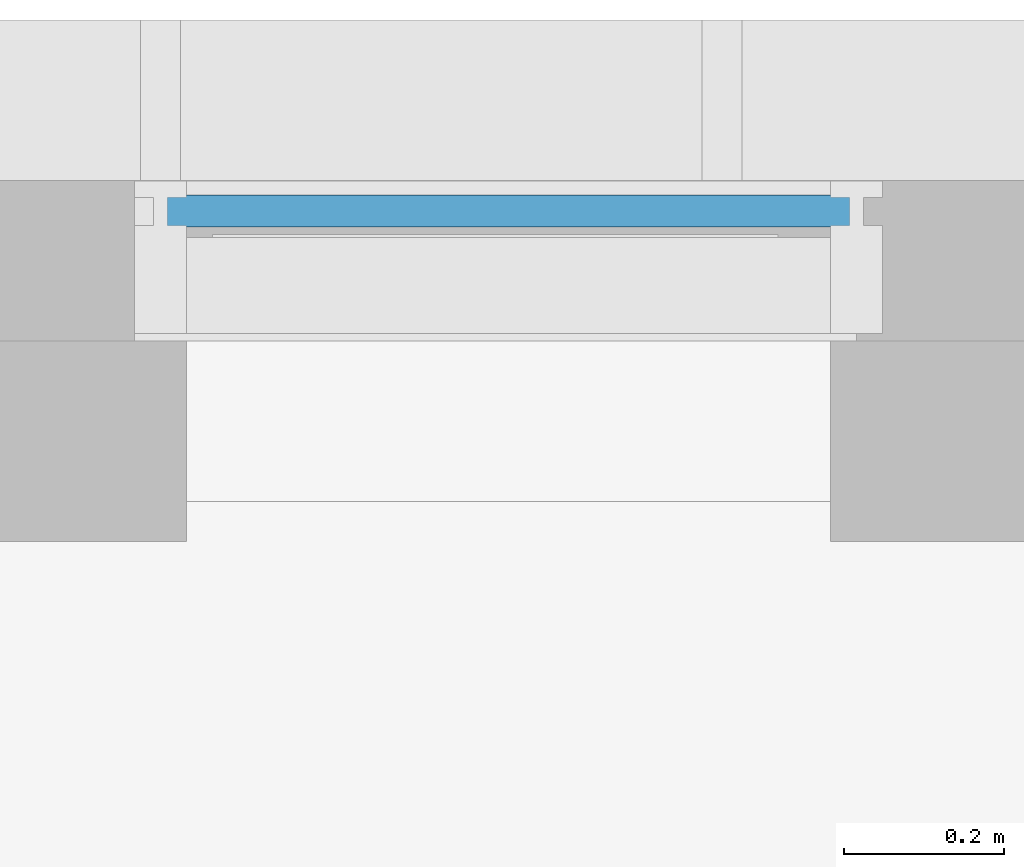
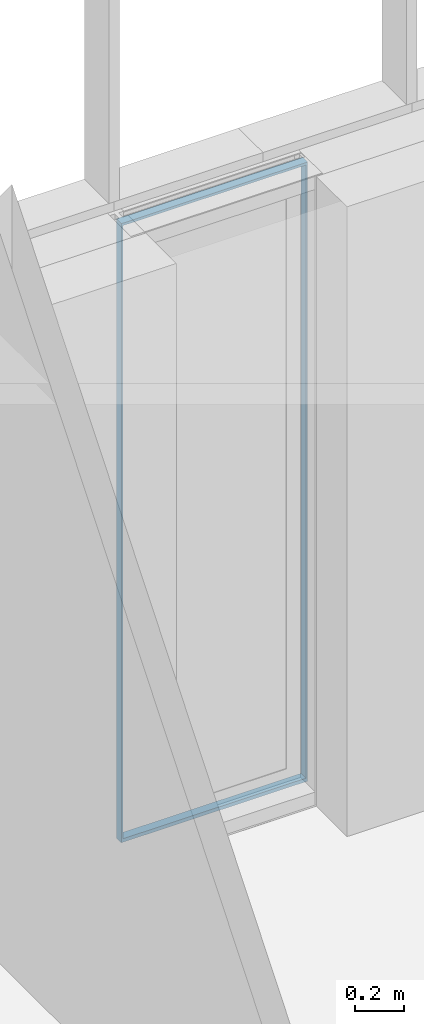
# One storey, part 180 of 240: 1 plate, 1 element without a shape of its own.
"""IFC2X3 building model written with IfcOpenShell, lengths in centimetres."""

import ifcopenshell
import ifcopenshell.guid

model = None  # the IFC model being written
_history = None  # IfcOwnerHistory: only IFC2X3 demands one
_inside = {}  # id of a spatial element -> (the spatial element, [elements in it])
_under = {}  # id of a project, library or spatial element -> (it, [spatial elements below it])
_declared = {}  # id of a project -> (the project, [libraries it declares])
_typed = {}  # id of a type object -> (the type object, [elements of that type])
_made_of = {}  # id of a material, layer set ... -> (it, [elements and type objects made of it])


def new_model(schema):
    """Start an empty IFC model of exactly this schema.

    Asked for "IFC4X3", IfcOpenShell would pick the latest addendum, in which some entities
    have other attributes; the version numbers below select the first issue.
    IFC2X3 requires an IfcOwnerHistory on every rooted entity: one is made here for all.
    """
    global model, _history
    if schema == "IFC4X3":
        model = ifcopenshell.file(schema_version=(4, 3, 0, 0))
    else:
        model = ifcopenshell.file(schema=schema)
    _inside.clear()
    _under.clear()
    _declared.clear()
    _typed.clear()
    _made_of.clear()
    _history = None
    if model.schema == "IFC2X3":
        org = make("IfcOrganization", Name="unknown")
        user = make(
            "IfcPersonAndOrganization",
            ThePerson=make("IfcPerson", FamilyName="unknown"),
            TheOrganization=org,
        )
        app = make(
            "IfcApplication",
            ApplicationDeveloper=org,
            Version="unknown",
            ApplicationFullName="unknown",
            ApplicationIdentifier="unknown",
        )
        _history = make(
            "IfcOwnerHistory",
            OwningUser=user,
            OwningApplication=app,
            ChangeAction="ADDED",
            CreationDate=0,
        )
    return model


def make(cls, **values):
    """One entity of the class cls with the attributes given. An attribute that is None is left unset."""
    return model.create_entity(
        cls, **{name: value for name, value in values.items() if value is not None}
    )


def entity(cls, *values):
    """Any entity or typed value of the class cls, its attributes in the order of the schema. None: left unset."""
    e = model.create_entity(cls)
    for i, value in enumerate(values):
        if value is not None:
            e[i] = value
    return e


def rooted(cls, **values):
    """An entity with a GlobalId (a new one), such as an element, a storey or a relation."""
    return make(cls, GlobalId=ifcopenshell.guid.new(), OwnerHistory=_history, **values)


def si_unit(unit_type, name, prefix=None):
    """IfcSIUnit, for example si_unit("LENGTHUNIT", "METRE", prefix="MILLI")."""
    return make("IfcSIUnit", UnitType=unit_type, Prefix=prefix, Name=name)


def converted_unit(unit_type, name, factor, base, dimensions=None, offset=None):
    """IfcConversionBasedUnit, such as the inch: factor (a typed value) times the base unit."""
    return make(
        "IfcConversionBasedUnit"
        if offset is None
        else "IfcConversionBasedUnitWithOffset",
        ConversionOffset=offset,
        Dimensions=None
        if dimensions is None
        else entity("IfcDimensionalExponents", *dimensions),
        UnitType=unit_type,
        Name=name,
        ConversionFactor=make(
            "IfcMeasureWithUnit", ValueComponent=factor, UnitComponent=base
        ),
    )


def derived_unit(unit_type, elements):
    """IfcDerivedUnit: a product of units, each with its exponent."""
    return make(
        "IfcDerivedUnit",
        Elements=[
            make("IfcDerivedUnitElement", Unit=unit, Exponent=power)
            for unit, power in elements
        ],
        UnitType=unit_type,
    )


def assignment(units):
    """IfcUnitAssignment: the units of a project."""
    return None if units is None else make("IfcUnitAssignment", Units=units)


def point(xyz):
    """IfcCartesianPoint."""
    return None if xyz is None else make("IfcCartesianPoint", Coordinates=xyz)


def direction(xyz):
    """IfcDirection."""
    return None if xyz is None else make("IfcDirection", DirectionRatios=xyz)


def frame(location, z_axis=None, x_axis=None):
    """IfcAxis2Placement3D, a coordinate frame: its origin and axes. An axis left out is left unset."""
    return make(
        "IfcAxis2Placement3D",
        Location=point(location),
        Axis=direction(z_axis),
        RefDirection=direction(x_axis),
    )


def origin():
    """The frame at (0, 0, 0) with its axes left unset."""
    return frame((0.0, 0.0, 0.0))


def place(relative_to, where):
    """IfcLocalPlacement: puts the frame where relative to a parent placement (None: the world)."""
    return make(
        "IfcLocalPlacement", PlacementRelTo=relative_to, RelativePlacement=where
    )


def context(
    kind, dimensions, precision=None, world=None, true_north=None, identifier=None
):
    """IfcGeometricRepresentationContext, for example the 3D "Model" context."""
    return make(
        "IfcGeometricRepresentationContext",
        ContextIdentifier=identifier,
        ContextType=kind,
        CoordinateSpaceDimension=dimensions,
        Precision=precision,
        WorldCoordinateSystem=world,
        TrueNorth=true_north,
    )


def subcontext(parent, identifier, kind, view, scale=None):
    """IfcGeometricRepresentationSubContext, for example "Body" below "Model"."""
    return make(
        "IfcGeometricRepresentationSubContext",
        ContextIdentifier=identifier,
        ContextType=kind,
        ParentContext=parent,
        TargetScale=scale,
        TargetView=view,
    )


def project(units=None, contexts=None):
    """IfcProject with its units and contexts."""
    return rooted(
        "IfcProject",
        Name="project",
        RepresentationContexts=contexts,
        UnitsInContext=assignment(units),
    )


def spatial(cls, under=None, at=None, **own):
    """A site, building, storey or space (cls), placed at a placement, below another one or the project."""
    s = rooted(cls, ObjectPlacement=at, **own)
    if under is not None:
        _under.setdefault(under.id(), (under, []))[1].append(s)
    return s


def faces_of(points, faces, orient=None, outer=None):
    """IfcFace entities. A face is a list of loops; a loop is a list of indices into points, from 0.

    orient and outer hold one flag for each loop. By default every Orientation is true, the
    first loop of a face is its IfcFaceOuterBound and the others are IfcFaceBound.
    """
    made = []
    for i, loops in enumerate(faces):
        bounds = []
        for j, loop in enumerate(loops):
            is_outer = j == 0 if outer is None else outer[i][j]
            bounds.append(
                make(
                    "IfcFaceOuterBound" if is_outer else "IfcFaceBound",
                    Bound=make("IfcPolyLoop", Polygon=[points[k] for k in loop]),
                    Orientation=True if orient is None else orient[i][j],
                )
            )
        made.append(make("IfcFace", Bounds=bounds))
    return made


def face_set(faces, orient=None, outer=None):
    """The faces of one IfcConnectedFaceSet. surface_model builds it on its shared points."""
    return ("IfcConnectedFaceSet", faces, orient, outer)


def surface_model(cls, points, shells):
    """IfcFaceBasedSurfaceModel or IfcShellBasedSurfaceModel (cls): surfaces that need not close."""
    shared = [point(p) for p in points]
    made = [make(c, CfsFaces=faces_of(shared, fs, o, b)) for c, fs, o, b in shells]
    if cls == "IfcFaceBasedSurfaceModel":
        return make(cls, FbsmFaces=made)
    return make(cls, SbsmBoundary=made)


def shape(context_of_items, identifier, shape_type, items):
    """IfcShapeRepresentation: the items that make up one representation, for example the "Body"."""
    return make(
        "IfcShapeRepresentation",
        ContextOfItems=context_of_items,
        RepresentationIdentifier=identifier,
        RepresentationType=shape_type,
        Items=items,
    )


def source(mapping_origin, context_of_items, identifier, shape_type, items):
    """IfcRepresentationMap: a shape defined once, which mapped items show again and again."""
    return make(
        "IfcRepresentationMap",
        MappingOrigin=mapping_origin,
        MappedRepresentation=shape(context_of_items, identifier, shape_type, items),
    )


def transform(
    local_origin,
    x_axis=None,
    y_axis=None,
    z_axis=None,
    scale=None,
    scale2=None,
    scale3=None,
    uniform=True,
):
    """IfcCartesianTransformationOperator3D, or its non-uniform kind. x_axis, y_axis, z_axis: its Axis1, 2, 3."""
    if uniform:
        return make(
            "IfcCartesianTransformationOperator3D",
            Axis1=direction(x_axis),
            Axis2=direction(y_axis),
            LocalOrigin=point(local_origin),
            Scale=scale,
            Axis3=direction(z_axis),
        )
    return make(
        "IfcCartesianTransformationOperator3DnonUniform",
        Axis1=direction(x_axis),
        Axis2=direction(y_axis),
        LocalOrigin=point(local_origin),
        Scale=scale,
        Axis3=direction(z_axis),
        Scale2=scale2,
        Scale3=scale3,
    )


def mapped(mapping_source, mapping_target):
    """IfcMappedItem: shows the shape of a source again, moved by a transform."""
    return make(
        "IfcMappedItem", MappingSource=mapping_source, MappingTarget=mapping_target
    )


def material(Name=None, Category=None):
    """IfcMaterial."""
    return make("IfcMaterial", Name=Name, Category=Category)


def layer(
    of_material, thickness, ventilated=None, Name=None, Category=None, Priority=None
):
    """IfcMaterialLayer: one layer of a wall or slab, of a material (None: an air gap)."""
    return make(
        "IfcMaterialLayer",
        Material=of_material,
        LayerThickness=thickness,
        IsVentilated=ventilated,
        Name=Name,
        Category=Category,
        Priority=Priority,
    )


def layer_set(layers, Name=None):
    """IfcMaterialLayerSet."""
    return make("IfcMaterialLayerSet", MaterialLayers=layers, LayerSetName=Name)


def made_of(thing, what):
    """Note that an element or type object is made of a material, layer set ...; save() writes the relation."""
    if what is not None:
        _made_of.setdefault(what.id(), (what, []))[1].append(thing)
    return thing


def type_object(cls, material=None, **own):
    """A type object (cls), such as IfcWallType, which elements share."""
    return made_of(rooted(cls, **own), material)


def type_shapes(of_type, sources):
    """Give a type object the sources (RepresentationMaps) that its elements show as mapped items."""
    of_type.RepresentationMaps = sources


def element(
    cls,
    number,
    at=None,
    inside=None,
    cuts=None,
    type_object=None,
    material=None,
    context=None,
    identifier="Body",
    shape_type=None,
    held_by="IfcProductDefinitionShape",
    body=None,
    shapes=None,
    **own,
):
    """One element of the class cls, such as IfcWall. Its Tag is "e" and its number.

    at: its placement. inside: the storey or other place that contains it. cuts: it is an
    opening in that element (IfcRelVoidsElement). A single representation is given by context,
    identifier, shape_type and body (its items); several are given by shapes. held_by: the class
    of the entity that holds the representations. save() writes the other relations.
    """
    e = rooted(cls, Tag="e%d" % number, ObjectPlacement=at, **own)
    if body is not None:
        shapes = [shape(context, identifier, shape_type, body)]
    if shapes is not None:
        e.Representation = make(held_by, Representations=shapes)
    if inside is not None:
        _inside.setdefault(inside.id(), (inside, []))[1].append(e)
    if cuts is not None:
        rooted(
            "IfcRelVoidsElement", RelatingBuildingElement=cuts, RelatedOpeningElement=e
        )
    if type_object is not None:
        _typed.setdefault(type_object.id(), (type_object, []))[1].append(e)
    return made_of(e, material)


def aggregate(whole, parts):
    """IfcRelAggregates: a whole, such as a stair, and the parts it consists of."""
    return rooted("IfcRelAggregates", RelatingObject=whole, RelatedObjects=parts)


def save(model, path):
    """Write the relations noted so far, then the file.

    IfcRelAggregates (storeys below a building ...), IfcRelContainedInSpatialStructure (elements
    in a storey), IfcRelDefinesByType, IfcRelAssociatesMaterial and IfcRelDeclares: one each for
    every whole, place, type object, material and project.
    """
    for whole, parts in _under.values():
        aggregate(whole, parts)
    for where, things in _inside.values():
        rooted(
            "IfcRelContainedInSpatialStructure",
            RelatedElements=things,
            RelatingStructure=where,
        )
    for kind, things in _typed.values():
        rooted("IfcRelDefinesByType", RelatedObjects=things, RelatingType=kind)
    for what, things in _made_of.values():
        rooted("IfcRelAssociatesMaterial", RelatedObjects=things, RelatingMaterial=what)
    for by, libraries in _declared.values():
        rooted("IfcRelDeclares", RelatingContext=by, RelatedDefinitions=libraries)
    model.write(path)


model = new_model("IFC2X3")

# Units and contexts
model_context = context("Model", 3, precision=0.001, world=origin(), true_north=direction((6.12303176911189e-17, 1.0)))
body_context = subcontext(model_context, "Body", "Model", "MODEL_VIEW")
ifc_project = project(units=[si_unit("LENGTHUNIT", "METRE", prefix="CENTI"), si_unit("AREAUNIT", "SQUARE_METRE"), si_unit("VOLUMEUNIT", "CUBIC_METRE"), converted_unit("PLANEANGLEUNIT", "DEGREE", entity("IfcRatioMeasure", 0.0174532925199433), si_unit("PLANEANGLEUNIT", "RADIAN"), dimensions=[0, 0, 0, 0, 0, 0, 0]), si_unit("MASSUNIT", "GRAM", prefix="KILO"), derived_unit("MASSDENSITYUNIT", [(si_unit("MASSUNIT", "GRAM", prefix="KILO"), 1), (si_unit("LENGTHUNIT", "METRE"), -3)]), si_unit("TIMEUNIT", "SECOND"), si_unit("FREQUENCYUNIT", "HERTZ"), si_unit("THERMODYNAMICTEMPERATUREUNIT", "DEGREE_CELSIUS"), derived_unit("THERMALTRANSMITTANCEUNIT", [(si_unit("MASSUNIT", "GRAM", prefix="KILO"), 1), (si_unit("THERMODYNAMICTEMPERATUREUNIT", "KELVIN"), -1), (si_unit("TIMEUNIT", "SECOND"), -3)]), derived_unit("VOLUMETRICFLOWRATEUNIT", [(si_unit("LENGTHUNIT", "METRE"), 3), (si_unit("TIMEUNIT", "SECOND"), -1)]), si_unit("ELECTRICCURRENTUNIT", "AMPERE"), si_unit("ELECTRICVOLTAGEUNIT", "VOLT"), si_unit("POWERUNIT", "WATT"), si_unit("FORCEUNIT", "NEWTON", prefix="KILO"), si_unit("ILLUMINANCEUNIT", "LUX"), si_unit("LUMINOUSFLUXUNIT", "LUMEN"), si_unit("LUMINOUSINTENSITYUNIT", "CANDELA"), derived_unit("USERDEFINED", [(si_unit("MASSUNIT", "GRAM", prefix="KILO"), -1), (si_unit("LENGTHUNIT", "METRE"), -2), (si_unit("TIMEUNIT", "SECOND"), 3), (si_unit("LUMINOUSFLUXUNIT", "LUMEN"), 1)]), derived_unit("LINEARVELOCITYUNIT", [(si_unit("LENGTHUNIT", "METRE"), 1), (si_unit("TIMEUNIT", "SECOND"), -1)]), si_unit("PRESSUREUNIT", "PASCAL"), derived_unit("USERDEFINED", [(si_unit("LENGTHUNIT", "METRE"), -2), (si_unit("MASSUNIT", "GRAM", prefix="KILO"), 1), (si_unit("TIMEUNIT", "SECOND"), -2)])], contexts=[model_context])

# Site, building, storey
site_placement = place(None, frame((-2781.94577612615, 7442.24238424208, 0.0)))
site = spatial("IfcSite", under=ifc_project, at=site_placement, Name="Default", CompositionType="ELEMENT")
building_placement = place(site_placement, origin())
building = spatial("IfcBuilding", under=site, at=building_placement, CompositionType="ELEMENT")
storey_placement = place(building_placement, origin())
storey = spatial("IfcBuildingStorey", under=building, at=storey_placement, Name="N00 - COO", CompositionType="ELEMENT", Elevation=0.0)

# Curtain wall, plate
curtain_wall_type = type_object("IfcCurtainWallType", Name="Mur-rideau:07 - mur rideau trame 90 cm", PredefinedType="NOTDEFINED")
curtain_wall_placement = place(building_placement, origin())
curtain_wall = element("IfcCurtainWall", 1, at=curtain_wall_placement, inside=storey, type_object=curtain_wall_type, Name="Mur-rideau:07 - mur rideau trame 90 cm", ObjectType="Mur-rideau:07 - mur rideau trame 90 cm")
ifc_material = material(Name="Verre")
ifc_layer = layer(ifc_material, 4.0)
ifc_layer_set = layer_set([ifc_layer], Name="Panneau système:Vitré")
plate_type = type_object("IfcPlateType", Name="Vitré", PredefinedType="CURTAIN_PANEL", material=ifc_layer_set)
shared_shape = source(origin(), body_context, "Body", "SurfaceModel", [
    surface_model("IfcFaceBasedSurfaceModel", [(43.8093750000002, -2.0, 0.0), (43.8093750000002, -2.0, 307.7375), (-43.8093750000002, -2.0, 307.7375), (-43.8093750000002, -2.0, 0.0), (-42.9406249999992, -2.0, 1.73749999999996), (-42.9406249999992, -2.0, 306.5), (42.940625, -2.0, 306.5), (42.940625, -2.0, 1.73749999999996), (43.8093750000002, 2.0, 0.0), (-43.8093750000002, 2.0, 0.0), (-43.8093750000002, 2.0, 307.7375), (43.8093750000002, 2.0, 307.7375), (-42.9406249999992, 2.0, 1.73749999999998), (42.940625, 2.0, 1.73749999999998), (42.940625, 2.0, 306.5), (-42.9406249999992, 2.0, 306.5)], [face_set([[[0, 1, 2, 3], [4, 5, 6, 7]], [[8, 9, 10, 11], [12, 13, 14, 15]], [[7, 4, 12, 13]], [[6, 7, 13, 14]], [[5, 6, 14, 15]], [[4, 5, 15, 12]], [[3, 9, 8, 0]], [[2, 10, 9, 3]], [[1, 11, 10, 2]], [[0, 8, 11, 1]]])]),
])
type_shapes(plate_type, [shared_shape])
plate_placement = place(curtain_wall_placement, frame((-6965.69050260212, 26.2000000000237, 2.38125000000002)))
plate = element("IfcPlate", 2, at=plate_placement, type_object=plate_type, Name="Panneau système:Vitré", ObjectType="Panneau système:Vitré", context=body_context, shape_type="MappedRepresentation", body=[
    mapped(shared_shape, transform((0.0, 0.0, 0.0), scale=1.0)),
])
aggregate(curtain_wall, [plate])

save(model, "model.ifc")
